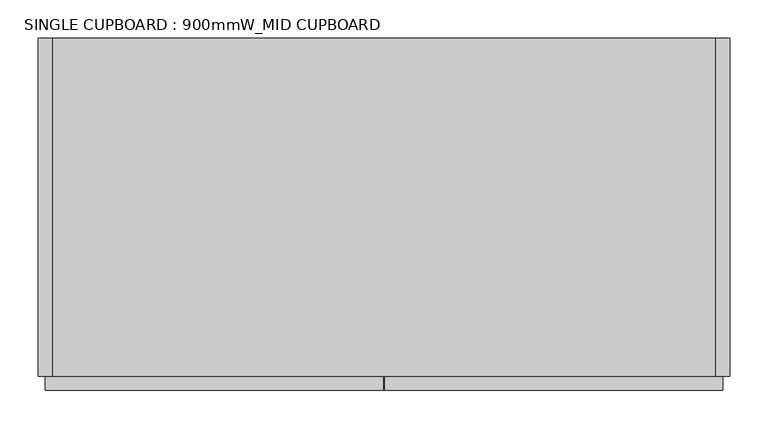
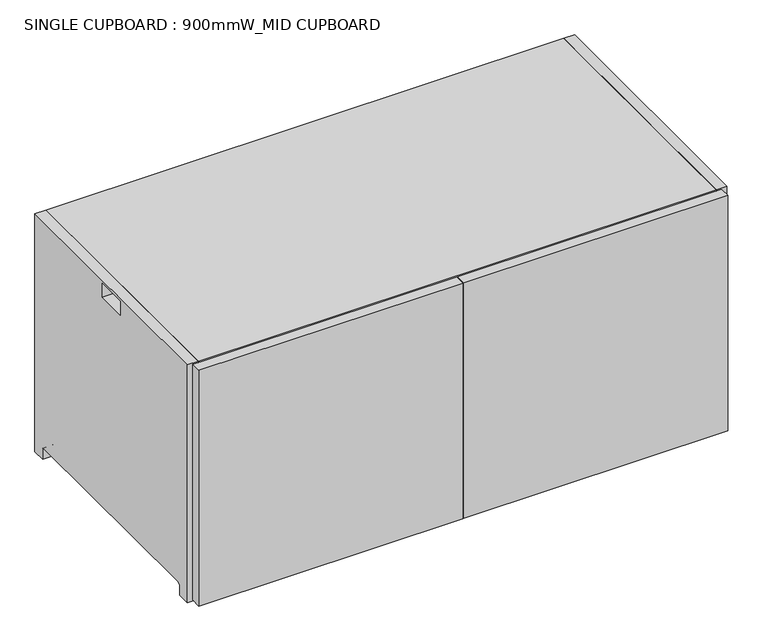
"""IFC4 building model written with IfcOpenShell, lengths in millimetres: furniture geometry, SINGLE CUPBOARD : 900mmW_MID CUPBOARD."""

from ifc_helpers import new_model, si_unit, point, frame, frame_2d, origin, place, context, project, spatial, polyline, circle_curve, trimmed, segment, composite_curve, outline, extrude, source, transform, mapped, element, save
from ifc_brep_helpers import plane_surface, revolved_surface, advanced_brep


def single_cupboard_900mmw_mid_cupboard_85c1ea13(model_context):
    return source(origin(), model_context, "Body", "SolidModel", [
        extrude(outline(composite_curve([segment(polyline([(-220.0, 419.5), (220.0, 419.5), (220.0, 0.0), (198.0, 0.0), (198.0, 17.0)]), True, "CONTINUOUS"), segment(trimmed(circle_curve(frame_2d((194.0, 17.0)), 4.0), [point((198.0, 17.0))], [point((194.0, 21.0))], True, "CARTESIAN"), True, "CONTINUOUS"), segment(polyline([(194.0, 21.0), (-194.0, 21.0)]), True, "CONTINUOUS"), segment(trimmed(circle_curve(frame_2d((-194.0, 17.0)), 4.0), [point((-194.0, 21.0))], [point((-198.0, 17.0))], True, "CARTESIAN"), True, "CONTINUOUS"), segment(polyline([(-198.0, 17.0), (-198.0, 0.0), (-220.0, 0.0), (-220.0, 419.5)]), True, "CONTINUOUS")], self_intersect=False), holes=[polyline([(-26.0, 414.5), (-26.0, 389.5), (26.0, 389.5), (26.0, 414.5), (-26.0, 414.5)])]), frame((-450.0, 0.0, 0.0), z_axis=(1.0, 0.0, 0.0), x_axis=(0.0, 1.0, 0.0)), (0.0, 0.0, 1.0), 18.0),
        advanced_brep(
        [(432.0, 220.0, 18.0), (-432.0, 220.0, 18.0), (-432.0, 197.8729833, 18.0), (-426.1019215, 197.8729833, 18.0), (-426.1019215, -197.8729833, 18.0), (-432.0, -197.8729833, 18.0), (-432.0, -220.0, 18.0), (432.0, -220.0, 18.0), (432.0, 220.0, 0.0), (432.0, -220.0, 0.0), (-432.0, -220.0, 0.0), (-432.0, -198.0, 0.0), (-426.1019215, -198.0, 0.0), (-426.1019215, 198.0, 0.0), (-432.0, 198.0, 0.0), (-432.0, 220.0, 0.0), (-432.0, 198.0, 17.0), (-432.0, -198.0, 17.0), (-426.1019215, 198.0, 17.0), (-426.1019215, -198.0, 17.0)],
        [
            (0, 1),
            (1, 2),
            (2, 3),
            (3, 4),
            (4, 5),
            (5, 6),
            (6, 7),
            (7, 0),
            (8, 9),
            (9, 10),
            (10, 11),
            (11, 12),
            (12, 13),
            (13, 14),
            (14, 15),
            (15, 8),
            (0, 8),
            (15, 1),
            (14, 16),
            (16, 2, circle_curve(frame((-432.0, 194.0, 17.0), z_axis=(1.0, 0.0, 0.0), x_axis=(0.0, 1.0, 0.0)), 4.0)),
            (10, 6),
            (5, 17, circle_curve(frame((-432.0, -194.0, 17.0), z_axis=(1.0, 0.0, 0.0), x_axis=(0.0, 1.0, 0.0)), 4.0)),
            (17, 11),
            (9, 7),
            (18, 13),
            (12, 19),
            (19, 4, circle_curve(frame((-426.1019215, -194.0, 17.0), z_axis=(-1.0, 0.0, 0.0), x_axis=(0.0, 1.0, 0.0)), 4.0)),
            (3, 18, circle_curve(frame((-426.1019215, 194.0, 17.0), z_axis=(-1.0, 0.0, 0.0), x_axis=(0.0, 1.0, 0.0)), 4.0)),
            (19, 17),
            (18, 16),
        ],
        [
            plane_surface(frame((-432.0, 220.0, 18.0), z_axis=(0.0, 0.0, 1.0), x_axis=(-1.0, 0.0, 0.0))),
            plane_surface(frame((-432.0, 220.0, 0.0), z_axis=(0.0, 0.0, -1.0), x_axis=(1.0, 0.0, 0.0))),
            plane_surface(frame((432.0, 220.0, 18.0), z_axis=(0.0, 1.0, 0.0), x_axis=(0.0, 0.0, -1.0))),
            plane_surface(frame((-432.0, 220.0, 18.0), z_axis=(-1.0, 0.0, 0.0), x_axis=(0.0, 0.0, -1.0))),
            plane_surface(frame((-432.0, -220.0, 18.0), z_axis=(0.0, -1.0, 0.0), x_axis=(0.0, 0.0, -1.0))),
            plane_surface(frame((432.0, -220.0, 18.0), z_axis=(1.0, 0.0, 0.0), x_axis=(0.0, 0.0, -1.0))),
            plane_surface(frame((-426.1019215, -190.0, 17.0), z_axis=(-1.0, 0.0, 0.0), x_axis=(0.0, 0.0, 1.0))),
            revolved_surface(polyline([(-426.1019215, -190.0, 17.0), (-432.0, -190.0, 17.0)]), (-456.0458228, -194.0, 17.0), (1.0, 0.0, 0.0)),
            plane_surface(frame((-426.1019215, -198.0, 17.0), z_axis=(0.0, 1.0, 0.0), x_axis=(-1.0, 0.0, 0.0))),
            plane_surface(frame((-426.1019215, 198.0, 0.0), z_axis=(0.0, -1.0, 0.0), x_axis=(-1.0, 0.0, 0.0))),
            revolved_surface(polyline([(-426.1019215, 198.0, 17.0), (-432.0, 198.0, 17.0)]), (-456.0458228, 194.0, 17.0), (1.0, 0.0, 0.0)),
        ],
        [
            (0, [[1, 2, 3, 4, 5, 6, 7, 8]]),
            (1, [[9, 10, 11, 12, 13, 14, 15, 16]]),
            (2, [[-1, 17, -16, 18]]),
            (3, [[-18, -15, 19, 20, -2]]),
            (3, [[21, -6, 22, 23, -11]]),
            (4, [[-7, -21, -10, 24]]),
            (5, [[-8, -24, -9, -17]]),
            (6, [[25, -13, 26, 27, -4, 28]]),
            (7, [[-27, 29, -22, -5]]),
            (8, [[-26, -12, -23, -29]]),
            (9, [[-25, 30, -19, -14]]),
            (10, [[-28, -3, -20, -30]]),
        ],
    ),
        extrude(outline(composite_curve([segment(polyline([(-220.0, 419.5), (220.0, 419.5), (220.0, 0.0), (198.0, 0.0), (198.0, 17.0)]), True, "CONTINUOUS"), segment(trimmed(circle_curve(frame_2d((194.0, 17.0)), 4.0), [point((198.0, 17.0))], [point((194.0, 21.0))], True, "CARTESIAN"), True, "CONTINUOUS"), segment(polyline([(194.0, 21.0), (-194.0, 21.0)]), True, "CONTINUOUS"), segment(trimmed(circle_curve(frame_2d((-194.0, 17.0)), 4.0), [point((-194.0, 21.0))], [point((-198.0, 17.0))], True, "CARTESIAN"), True, "CONTINUOUS"), segment(polyline([(-198.0, 17.0), (-198.0, 0.0), (-220.0, 0.0), (-220.0, 419.5)]), True, "CONTINUOUS")], self_intersect=False), holes=[polyline([(-26.0, 414.5), (-26.0, 389.5), (26.0, 389.5), (26.0, 414.5), (-26.0, 414.5)])]), frame((432.0, 0.0, 0.0), z_axis=(1.0, 0.0, 0.0), x_axis=(0.0, 1.0, 0.0)), (0.0, 0.0, 1.0), 18.0),
        extrude(outline(polyline([(432.0, 220.0), (432.0, 202.0), (-432.0, 202.0), (-432.0, 220.0), (432.0, 220.0)])), frame((0.0, 0.0, 18.0), z_axis=(0.0, 0.0, 1.0), x_axis=(1.0, 0.0, 0.0)), (0.0, 0.0, 1.0), 383.5),
        extrude(outline(polyline([(432.0, 220.0), (432.0, -220.0), (-432.0, -220.0), (-432.0, 220.0), (432.0, 220.0)])), frame((0.0, 0.0, 401.5), z_axis=(0.0, 0.0, 1.0), x_axis=(1.0, 0.0, 0.0)), (0.0, 0.0, 1.0), 18.0),
        extrude(outline(polyline([(9.0, 202.0), (9.0, -220.0), (-9.0, -220.0), (-9.0, 202.0), (9.0, 202.0)])), frame((0.0, 0.0, 18.0), z_axis=(0.0, 0.0, 1.0), x_axis=(1.0, 0.0, 0.0)), (0.0, 0.0, 1.0), 383.5),
        extrude(outline(polyline([(441.0, -220.0), (441.0, -238.0), (1.0, -238.0), (1.0, -220.0), (441.0, -220.0)])), frame((0.0, 0.0, 2.0), z_axis=(0.0, 0.0, 1.0), x_axis=(1.0, 0.0, 0.0)), (0.0, 0.0, 1.0), 415.5),
        extrude(outline(polyline([(-441.0, -220.0), (-1.0, -220.0), (-1.0, -238.0), (-441.0, -238.0), (-441.0, -220.0)])), frame((0.0, 0.0, 2.0), z_axis=(0.0, 0.0, 1.0), x_axis=(1.0, 0.0, 0.0)), (0.0, 0.0, 1.0), 415.5),
    ])


if __name__ == "__main__":
    model = new_model("IFC4")
    model_context = context("Model", 3, world=origin())
    ifc_project = project(units=[si_unit("LENGTHUNIT", "METRE", prefix="MILLI")], contexts=[model_context])
    site = spatial("IfcSite", under=ifc_project)
    building = spatial("IfcBuilding", under=site)
    placement = place(None, origin())
    single_cupboard_900mmw_mid_cupboard_shape = single_cupboard_900mmw_mid_cupboard_85c1ea13(model_context)
    element("IfcFurniture", 1, ObjectType="SINGLE CUPBOARD : 900mmW_MID CUPBOARD", at=placement, inside=building, context=model_context, shape_type="MappedRepresentation", body=[
        mapped(single_cupboard_900mmw_mid_cupboard_shape, transform((0.0, 0.0, 0.0), x_axis=(1.0, 0.0, 0.0), y_axis=(0.0, 1.0, 0.0), z_axis=(0.0, 0.0, 1.0))),
    ])
    save(model, "model.ifc")
